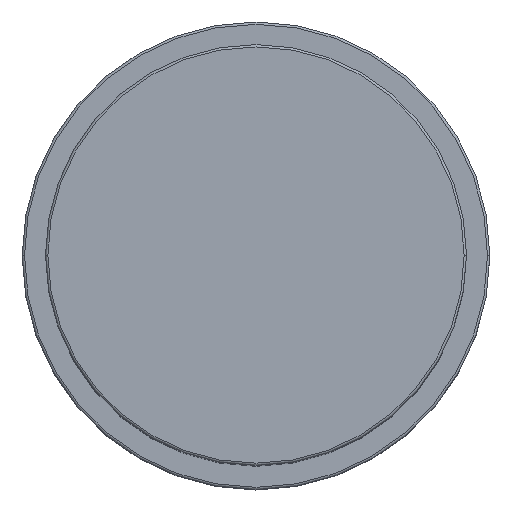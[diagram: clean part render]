
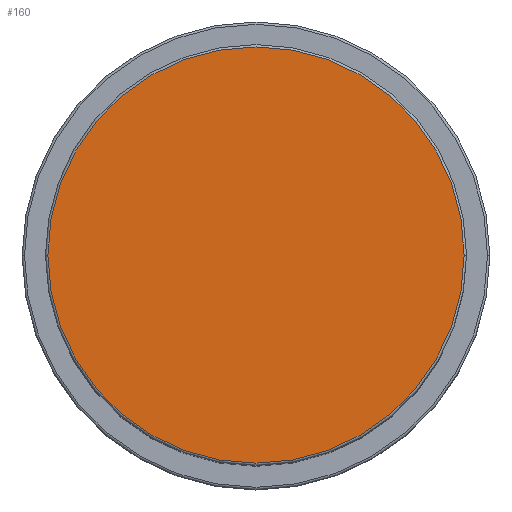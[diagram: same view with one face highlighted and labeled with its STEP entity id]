
A CAD part, top view. The second image highlights one B-rep face of the part: STEP entity #160.
In plain terms, the highlighted planar face has unit normal (0, 0, 1).
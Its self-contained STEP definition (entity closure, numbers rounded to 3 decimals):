
#52 = ORIENTED_EDGE ( 'NONE', *, *, #158, .T. ) ;
#62 = VERTEX_POINT ( 'NONE', #73 ) ;
#73 = CARTESIAN_POINT ( 'NONE',  ( -44.5, 0., 117. ) ) ;
#117 = AXIS2_PLACEMENT_3D ( 'NONE', #198, #1715, #203 ) ;
#158 = EDGE_CURVE ( 'NONE', #62, #515, #585, .T. ) ;
#160 = ADVANCED_FACE ( 'NONE', ( #1733 ), #636, .T. ) ;
#182 = CIRCLE ( 'NONE', #1399, 44.5 ) ;
#191 = CARTESIAN_POINT ( 'NONE',  ( 0., 0., 117. ) ) ;
#198 = CARTESIAN_POINT ( 'NONE',  ( 0., 0., 117. ) ) ;
#203 = DIRECTION ( 'NONE',  ( 1., 0., 0. ) ) ;
#253 = CARTESIAN_POINT ( 'NONE',  ( 44.5, 0., 117. ) ) ;
#254 = EDGE_LOOP ( 'NONE', ( #1302, #52 ) ) ;
#515 = VERTEX_POINT ( 'NONE', #253 ) ;
#569 = DIRECTION ( 'NONE',  ( 1., 0., 0. ) ) ;
#585 = CIRCLE ( 'NONE', #117, 44.5 ) ;
#636 = PLANE ( 'NONE',  #1008 ) ;
#676 = EDGE_CURVE ( 'NONE', #515, #62, #182, .T. ) ;
#891 = DIRECTION ( 'NONE',  ( 1., 0., 0. ) ) ;
#1008 = AXIS2_PLACEMENT_3D ( 'NONE', #191, #1708, #891 ) ;
#1259 = CARTESIAN_POINT ( 'NONE',  ( 0., 0., 117. ) ) ;
#1302 = ORIENTED_EDGE ( 'NONE', *, *, #676, .T. ) ;
#1399 = AXIS2_PLACEMENT_3D ( 'NONE', #1259, #1400, #569 ) ;
#1400 = DIRECTION ( 'NONE',  ( 0., 0., 1. ) ) ;
#1708 = DIRECTION ( 'NONE',  ( 0., 0., 1. ) ) ;
#1715 = DIRECTION ( 'NONE',  ( 0., 0., 1. ) ) ;
#1733 = FACE_OUTER_BOUND ( 'NONE', #254, .T. ) ;
